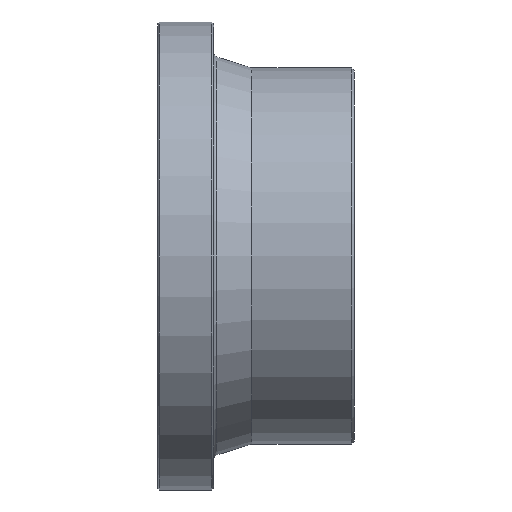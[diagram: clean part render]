
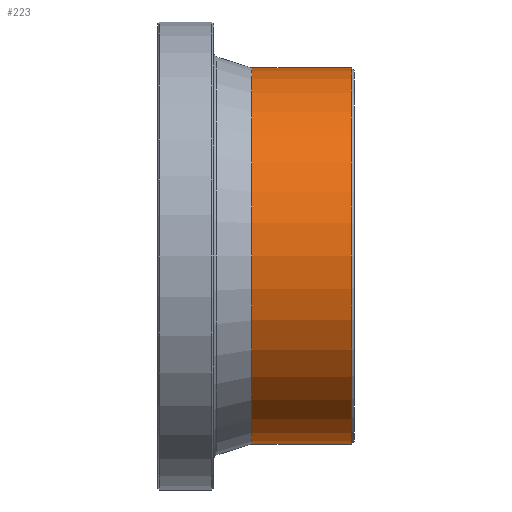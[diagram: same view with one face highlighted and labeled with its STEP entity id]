
A CAD part, front view. The second image highlights one B-rep face of the part: STEP entity #223.
In plain terms, the highlighted cylindrical face has radius 157.5 mm (diameter 315 mm), a full revolution.
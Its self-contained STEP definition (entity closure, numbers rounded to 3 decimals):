
#31=CYLINDRICAL_SURFACE('',#262,157.5);
#40=ORIENTED_EDGE('',*,*,#80,.T.);
#41=ORIENTED_EDGE('',*,*,#81,.F.);
#80=EDGE_CURVE('',#100,#100,#120,.T.);
#81=EDGE_CURVE('',#101,#101,#121,.T.);
#100=VERTEX_POINT('',#393);
#101=VERTEX_POINT('',#395);
#120=CIRCLE('',#263,157.5);
#121=CIRCLE('',#264,157.5);
#140=EDGE_LOOP('',(#40));
#141=EDGE_LOOP('',(#41));
#180=FACE_BOUND('',#140,.T.);
#181=FACE_BOUND('',#141,.T.);
#223=ADVANCED_FACE('',(#180,#181),#31,.T.);
#262=AXIS2_PLACEMENT_3D('',#391,#313,#314);
#263=AXIS2_PLACEMENT_3D('',#392,#315,#316);
#264=AXIS2_PLACEMENT_3D('',#394,#317,#318);
#313=DIRECTION('',(-1.,0.,0.));
#314=DIRECTION('',(0.,0.,1.));
#315=DIRECTION('',(-1.,0.,0.));
#316=DIRECTION('',(0.,0.,1.));
#317=DIRECTION('',(-1.,0.,0.));
#318=DIRECTION('',(0.,0.,1.));
#391=CARTESIAN_POINT('',(60.,0.,0.));
#392=CARTESIAN_POINT('',(162.5,0.,0.));
#393=CARTESIAN_POINT('',(162.5,0.,157.5));
#394=CARTESIAN_POINT('',(79.,0.,0.));
#395=CARTESIAN_POINT('',(79.,0.,157.5));
